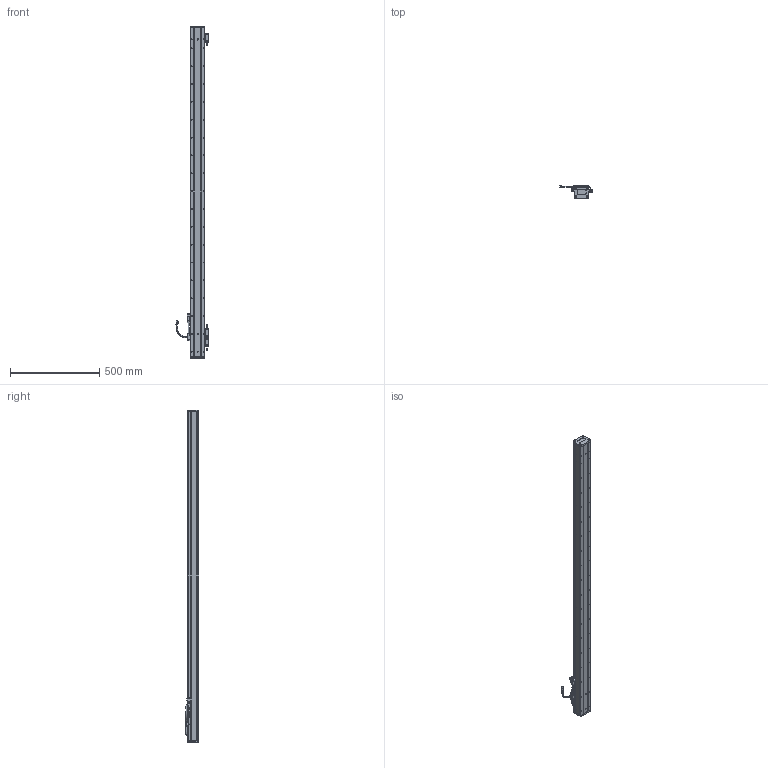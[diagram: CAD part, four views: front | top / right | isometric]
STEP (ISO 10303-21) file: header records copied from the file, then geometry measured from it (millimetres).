
FILE_DESCRIPTION(('Open CASCADE Model'),'2;1');
FILE_NAME('Open CASCADE Shape Model','2025-11-07T02:31:26',('Author'),( 'Open CASCADE'),'Open CASCADE STEP processor 7.6','Open CASCADE 7.6' ,'Unknown');
FILE_SCHEMA(('AUTOMOTIVE_DESIGN { 1 0 10303 214 1 1 1 1 }'));
Length unit declared in the file: millimetre
Products named in the file (24): Open CASCADE STEP translator 7.6 53; Open CASCADE STEP translator 7.6 53.1; Open CASCADE STEP translator 7.6 53.2; Open CASCADE STEP translator 7.6 53.3; Open CASCADE STEP translator 7.6 53.4; Open CASCADE STEP translator 7.6 53.5; Open CASCADE STEP translator 7.6 53.6; Open CASCADE STEP translator 7.6 53.7; Open CASCADE STEP translator 7.6 53.7.1; Open CASCADE STEP translator 7.6 53.7.1.1; Open CASCADE STEP translator 7.6 53.7.1.2; Open CASCADE STEP translator 7.6 53.8; Open CASCADE STEP translator 7.6 53.9; Open CASCADE STEP translator 7.6 53.10; Open CASCADE STEP translator 7.6 53.10.1; Open CASCADE STEP translator 7.6 53.10.1.1; Open CASCADE STEP translator 7.6 53.10.1.2; Open CASCADE STEP translator 7.6 53.10.1.3; Open CASCADE STEP translator 7.6 53.11; Open CASCADE STEP translator 7.6 53.12; Open CASCADE STEP translator 7.6 53.13; Open CASCADE STEP translator 7.6 53.14; Open CASCADE STEP translator 7.6 53.15; Open CASCADE STEP translator 7.6 53.16
Assembly tree (23 placements, depth 4):
  Open CASCADE STEP translator 7.6 53
    Open CASCADE STEP translator 7.6 53.1
    Open CASCADE STEP translator 7.6 53.2
    Open CASCADE STEP translator 7.6 53.3
    Open CASCADE STEP translator 7.6 53.4
    Open CASCADE STEP translator 7.6 53.5
    Open CASCADE STEP translator 7.6 53.6
    Open CASCADE STEP translator 7.6 53.7
      Open CASCADE STEP translator 7.6 53.7.1
        Open CASCADE STEP translator 7.6 53.7.1.1
        Open CASCADE STEP translator 7.6 53.7.1.2
    Open CASCADE STEP translator 7.6 53.8
    Open CASCADE STEP translator 7.6 53.9
    Open CASCADE STEP translator 7.6 53.10
      Open CASCADE STEP translator 7.6 53.10.1
        Open CASCADE STEP translator 7.6 53.10.1.1
        Open CASCADE STEP translator 7.6 53.10.1.2
        Open CASCADE STEP translator 7.6 53.10.1.3
    Open CASCADE STEP translator 7.6 53.11
    Open CASCADE STEP translator 7.6 53.12
    Open CASCADE STEP translator 7.6 53.13
    Open CASCADE STEP translator 7.6 53.14
    Open CASCADE STEP translator 7.6 53.15
    Open CASCADE STEP translator 7.6 53.16
Bounding box: 181.25 x 78 x 1860 mm (x, y, z)
Volume: 5399586.8 mm3; surface area: 1115688 mm2
Topology: 19 solids, 19 shells, 2030 faces, 5181 edges, 3301 vertices
Faces by surface type: plane 1100, cylinder 728, cone 112, torus 54, bspline 30, sphere 6
Entity records: 142943 total; most frequent: CARTESIAN_POINT 39465, DIRECTION 19585, LINE 11986, VECTOR 11986, ORIENTED_EDGE 10264, PCURVE 10264, DEFINITIONAL_REPRESENTATION 10264, EDGE_CURVE 5132
